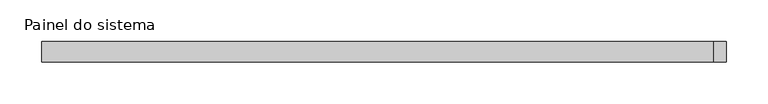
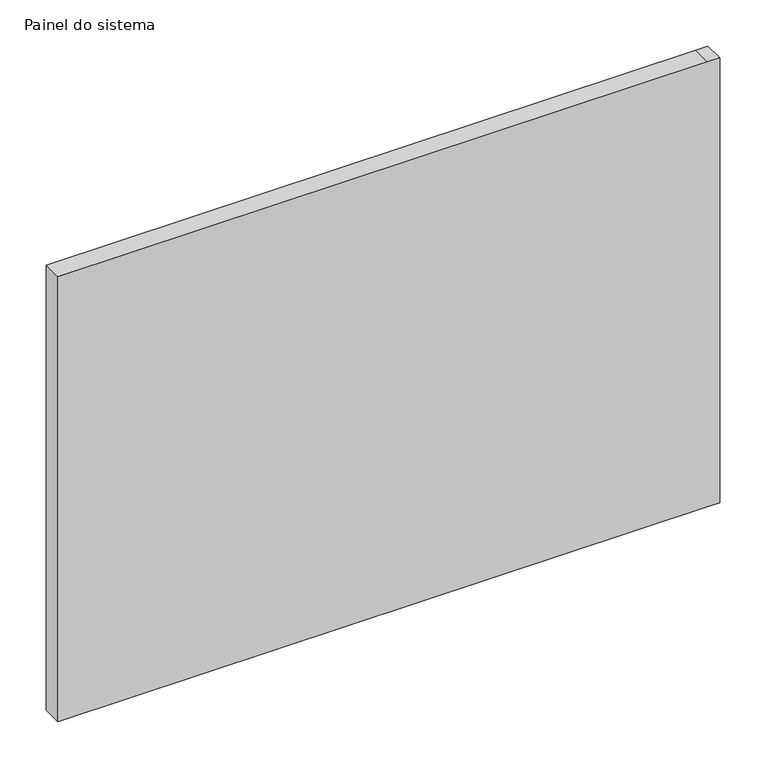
"""IFC4 building model written with IfcOpenShell, lengths in millimetres: plate geometry, Painel do sistema : Envidraçado."""

from ifc_helpers import new_model, si_unit, frame, origin, place, context, project, spatial, polyline, outline, extrude, source, transform, mapped, element, save


def painel_do_sistema_f3ee5464(model_context):
    return source(origin(), model_context, "Body", "SweptSolid", [
        extrude(outline(polyline([(0.0, -411.666496), (0.0, 396.666496), (0.0, 411.666496), (585.0, 411.666496), (585.0, 396.666496), (585.0, -411.666496), (0.0, -411.666496)])), frame((0.0, 24.5, 0.0), z_axis=(0.0, 1.0, 0.0), x_axis=(0.0, 0.0, 1.0)), (0.0, 0.0, 1.0), 25.0),
    ])


if __name__ == "__main__":
    model = new_model("IFC4")
    model_context = context("Model", 3, world=origin())
    ifc_project = project(units=[si_unit("LENGTHUNIT", "METRE", prefix="MILLI")], contexts=[model_context])
    site = spatial("IfcSite", under=ifc_project)
    building = spatial("IfcBuilding", under=site)
    placement = place(None, origin())
    painel_do_sistema_shape = painel_do_sistema_f3ee5464(model_context)
    element("IfcPlate", 1, ObjectType="Painel do sistema : Envidraçado", at=placement, inside=building, context=model_context, shape_type="MappedRepresentation", body=[
        mapped(painel_do_sistema_shape, transform((0.0, 0.0, 0.0), x_axis=(1.0, 0.0, 0.0), y_axis=(0.0, 1.0, 0.0), z_axis=(0.0, 0.0, 1.0))),
    ])
    save(model, "model.ifc")
